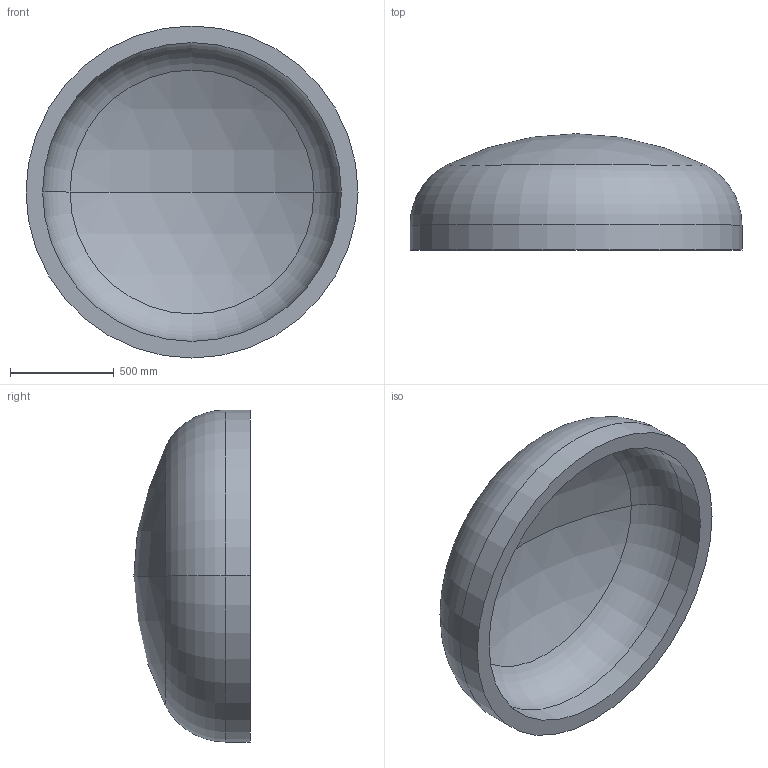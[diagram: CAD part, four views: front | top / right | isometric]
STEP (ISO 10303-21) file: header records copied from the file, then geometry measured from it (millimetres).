
FILE_DESCRIPTION (( 'STEP AP203' ), '1' );
FILE_NAME ('DIN 28013 Korbbogenform_-_Boden DIN 28013 - 1600 x 120 - I - s=80.step', '2016-07-01T11:25:36', ( '' ), ( '' ), 'SwSTEP 2.0', 'SolidWorks 2013', '' );
FILE_SCHEMA (( 'CONFIG_CONTROL_DESIGN' ));
Length unit declared in the file: millimetre
Products named in the file (1): DIN 28013 Korbbogenform_-_Boden DIN 28013 - 1600 x 120 - I - s=80
Bounding box: 1600 x 560.43 x 1600 mm (x, y, z)
Volume: 254509776.1 mm3; surface area: 6758164.6 mm2
Topology: 1 solids, 1 shells, 13 faces, 24 edges, 14 vertices
Faces by surface type: torus 4, cylinder 4, sphere 4, plane 1
Entity records: 407 total; most frequent: DIRECTION 72, CARTESIAN_POINT 52, ORIENTED_EDGE 48, AXIS2_PLACEMENT_3D 34, EDGE_CURVE 24, CIRCLE 20, EDGE_LOOP 14, VERTEX_POINT 14
